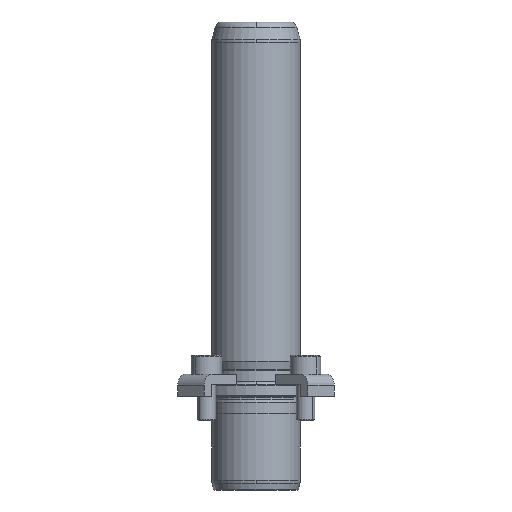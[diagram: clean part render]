
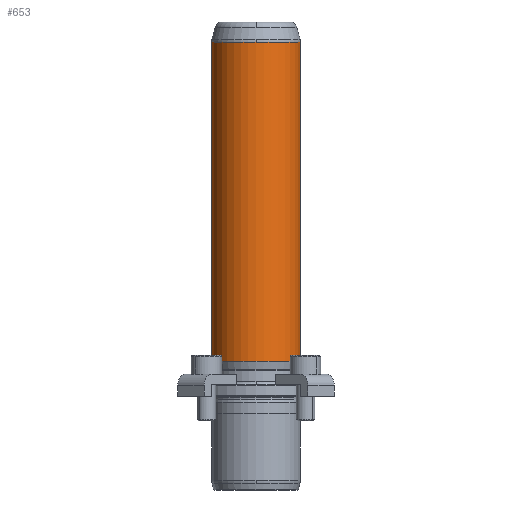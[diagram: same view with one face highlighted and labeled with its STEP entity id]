
A CAD part, front view. The second image highlights one B-rep face of the part: STEP entity #653.
In plain terms, the highlighted cylindrical face has radius 19 mm (diameter 38 mm), a partial arc.
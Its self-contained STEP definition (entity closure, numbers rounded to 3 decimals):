
#566=CARTESIAN_POINT('',(0.0,-19.,151.342));
#567=VERTEX_POINT('',#566);
#594=CARTESIAN_POINT('',(-19.0,0.,151.342));
#595=VERTEX_POINT('',#594);
#603=CARTESIAN_POINT('',(0.0,0.,151.342));
#604=DIRECTION('',(0.0,0.0,1.0));
#605=DIRECTION('',(1.0,0.0,0.0));
#606=AXIS2_PLACEMENT_3D('',#603,#604,#605);
#607=CIRCLE('',#606,19.0);
#608=EDGE_CURVE('',#595,#567,#607,.T.);
#613=CARTESIAN_POINT('',(0.0,0.,83.171));
#614=DIRECTION('',(0.0,0.,1.0));
#615=DIRECTION('',(1.0,0.0,0.0));
#616=AXIS2_PLACEMENT_3D('',#613,#614,#615);
#617=CYLINDRICAL_SURFACE('',#616,19.0);
#618=CARTESIAN_POINT('',(19.0,0.,151.342));
#619=VERTEX_POINT('',#618);
#620=CARTESIAN_POINT('',(19.0,0.,15.0));
#621=VERTEX_POINT('',#620);
#622=CARTESIAN_POINT('',(19.0,0.,151.342));
#623=DIRECTION('',(0.0,0.0,-1.0));
#624=VECTOR('',#623,136.342);
#625=LINE('',#622,#624);
#626=EDGE_CURVE('',#619,#621,#625,.T.);
#627=ORIENTED_EDGE('',*,*,#626,.F.);
#628=CARTESIAN_POINT('',(0.0,0.,151.342));
#629=DIRECTION('',(0.0,0.0,1.0));
#630=DIRECTION('',(1.0,0.0,0.0));
#631=AXIS2_PLACEMENT_3D('',#628,#629,#630);
#632=CIRCLE('',#631,19.0);
#633=EDGE_CURVE('',#567,#619,#632,.T.);
#634=ORIENTED_EDGE('',*,*,#633,.F.);
#635=ORIENTED_EDGE('',*,*,#608,.F.);
#636=CARTESIAN_POINT('',(-19.0,0.,15.0));
#637=VERTEX_POINT('',#636);
#638=CARTESIAN_POINT('',(-19.0,0.,151.342));
#639=DIRECTION('',(0.0,0.0,-1.0));
#640=VECTOR('',#639,136.342);
#641=LINE('',#638,#640);
#642=EDGE_CURVE('',#595,#637,#641,.T.);
#643=ORIENTED_EDGE('',*,*,#642,.T.);
#644=CARTESIAN_POINT('',(0.0,0.,15.0));
#645=DIRECTION('',(0.0,0.0,1.0));
#646=DIRECTION('',(1.0,0.0,0.0));
#647=AXIS2_PLACEMENT_3D('',#644,#645,#646);
#648=CIRCLE('',#647,19.0);
#649=EDGE_CURVE('',#637,#621,#648,.T.);
#650=ORIENTED_EDGE('',*,*,#649,.T.);
#651=EDGE_LOOP('',(#627,#634,#635,#643,#650));
#652=FACE_OUTER_BOUND('',#651,.T.);
#653=ADVANCED_FACE('',(#652),#617,.T.);
